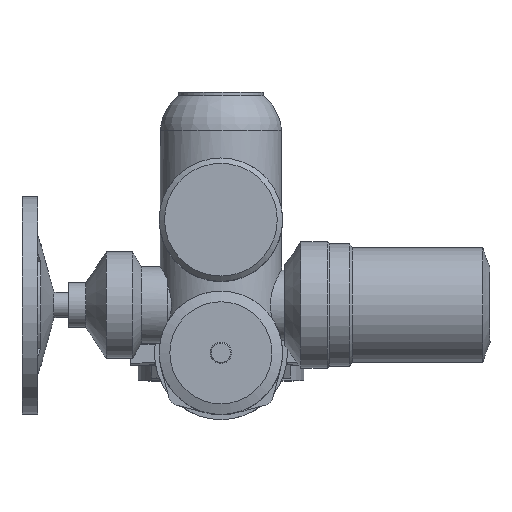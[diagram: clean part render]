
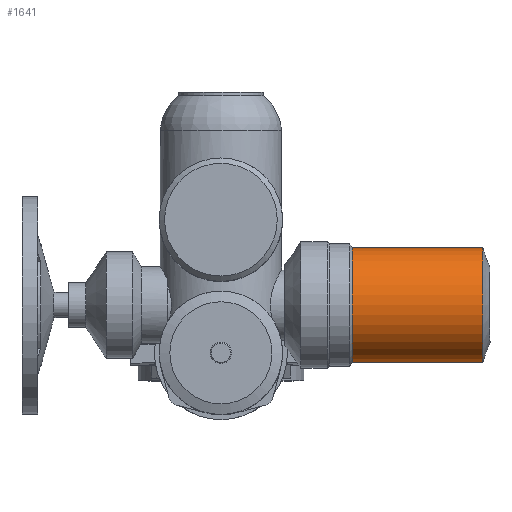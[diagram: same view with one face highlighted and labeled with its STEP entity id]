
A CAD part, top view. The second image highlights one B-rep face of the part: STEP entity #1641.
In plain terms, the highlighted cylindrical face has radius 54 mm (diameter 108 mm), a full revolution.
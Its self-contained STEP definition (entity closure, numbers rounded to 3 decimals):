
#1641=ADVANCED_FACE('',(#3547,#3549),#3551,.T.);
#3547=FACE_OUTER_BOUND('',#3548,.T.);
#3548=EDGE_LOOP('',(#4916));
#3549=FACE_OUTER_BOUND('',#3550,.T.);
#3550=EDGE_LOOP('',(#4917));
#3551=CYLINDRICAL_SURFACE('',#3552,54.);
#3552=AXIS2_PLACEMENT_3D('',#3553,#3554,#3555);
#3553=CARTESIAN_POINT('',(246.085,45.,434.));
#3554=DIRECTION('',(-1.,0.,0.));
#3555=DIRECTION('',(0.,0.,1.));
#4916=ORIENTED_EDGE('',*,*,#5693,.T.);
#4917=ORIENTED_EDGE('',*,*,#5593,.F.);
#5593=EDGE_CURVE('',#6448,#6448,#6449,.T.);
#5693=EDGE_CURVE('',#6606,#6606,#6607,.T.);
#6448=VERTEX_POINT('',#9375);
#6449=CIRCLE('',#9376,54.);
#6606=VERTEX_POINT('',#9759);
#6607=CIRCLE('',#9760,54.);
#9375=CARTESIAN_POINT('',(123.505,45.,488.));
#9376=AXIS2_PLACEMENT_3D('',#9377,#9378,#9379);
#9377=CARTESIAN_POINT('',(123.505,45.,434.));
#9378=DIRECTION('',(-1.,0.,0.));
#9379=DIRECTION('',(0.,0.,1.));
#9759=CARTESIAN_POINT('',(246.085,45.,488.));
#9760=AXIS2_PLACEMENT_3D('',#9761,#9762,#9763);
#9761=CARTESIAN_POINT('',(246.085,45.,434.));
#9762=DIRECTION('',(-1.,0.,0.));
#9763=DIRECTION('',(0.,0.,1.));
